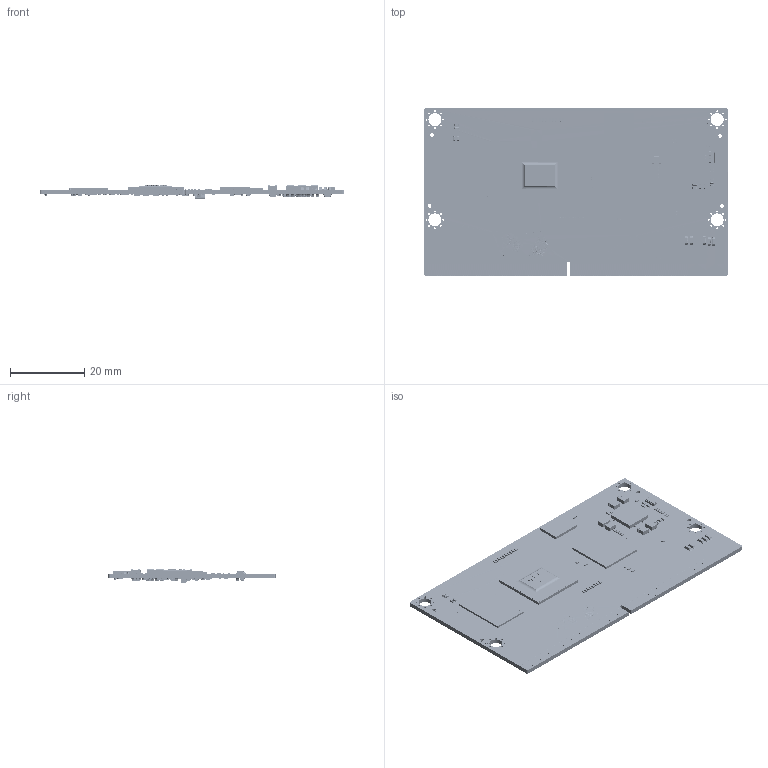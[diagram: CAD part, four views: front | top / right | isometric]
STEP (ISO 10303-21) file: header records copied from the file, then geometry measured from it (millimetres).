
FILE_DESCRIPTION (( 'STEP AP214' ), '1' );
FILE_NAME ('MYC-JX8MPQ-V10-220513-end.STEP', '2022-05-13T11:01:59', ( '' ), ( '' ), 'SwSTEP 2.0', 'SolidWorks 2022', '' );
FILE_SCHEMA (( 'AUTOMOTIVE_DESIGN' ));
Length unit declared in the file: millimetre
Products named in the file (262): Part_147_183.stp; Part_147_56.stp; Cylinder.stp; Part_147_17.stp; Part_147_120.stp; Part_147_46.stp; Part_147_123.stp; PCB-7.stp; Part_147_173.stp; CONN-JINSHOUZHI281.stp; Part_147_78.stp; C0201.stp; Part_147_49.stp; Part_147_102.stp; Part_147_187.stp; pcb1.stp; Part_147_52.stp; MYC-JX8MPQ-V10-220513.stp; Part_147_193.stp; Part_147_168.stp; Part_147_58.stp; HVQFN56_0P4_7X7_EP4P7MM.stp; Part_147_101.stp; Part_147_191.stp; Part_147_81.stp; R0402-2.stp; Part_147_148.stp; FBGA200.stp; Part_147_118.stp; Part_147_171.stp; Part_147_126.stp; User Library-10001376_NXP_MIMX8ML4DVNLZAB.url.stp; C0201-5.stp; Part_147_115.stp; User Library-IS46LQ32128A-062BLA.stp; Part_147_26.stp; L2X2_5.stp; Part_147_65.stp; User Library-tsx-3225-1.stp; Part_147_37.stp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
Assembly tree (574 placements, depth 8):
  MYC-JX8MPQ-V10-220513-end
    MYC-JX8MPQ-V10-220513.stp
      COMPONENTS.stp
        CONN-JINSHOUZHI281.stp
          pcb1.stp
        3225.stp
          User Library-tsx-3225-1.stp
        TPAD_020.stp  x38
          TEST0_8smd.stp
        C0402.stp  x38
          C0402-0.stp
        C0603.stp  x25
          C0603-1.stp
        R0402.stp  x83
          R0402-2.stp
        ID-BOARD.stp  x6
          PIECE.stp
        R0603.stp  x8
          R0603-3.stp
        L2X2_5.stp  x6
          L2520.stp
        TEST0_8-SMD.stp  x16
          PIECE.stp
        BGA153_C010S.stp
          BGA153.stp
        OS3215.stp
          User Library-NDK_NX3215SA.stp
        FBGA200.stp
          User Library-IS46LQ32128A-062BLA.stp
            Part_147.stp
            Part_147_2.stp
            Part_147_3.stp
            Part_147_4.stp
            Part_147_5.stp
            Part_147_6.stp
            Part_147_7.stp
            Part_147_8.stp
            Part_147_9.stp
            Part_147_10.stp
            Part_147_11.stp
            Part_147_12.stp
            Part_147_13.stp
            Part_147_14.stp
            Part_147_15.stp
            Part_147_16.stp
            Part_147_17.stp
            Part_147_18.stp
            Part_147_19.stp
            Part_147_20.stp
            Part_147_21.stp
            Part_147_22.stp
            Part_147_23.stp
            Part_147_24.stp
            Part_147_25.stp
            Part_147_26.stp
            Part_147_27.stp
            Part_147_28.stp
            Part_147_29.stp
            Part_147_30.stp
            Part_147_31.stp
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Bounding box: 82 x 45 x 3.54 mm (x, y, z)
Volume: 650.3 mm3; surface area: 11021.1 mm2
Topology: 1697 solids, 1785 shells, 51174 faces, 135376 edges, 88436 vertices
Faces by surface type: bspline 20929, plane 18132, cylinder 8673, sphere 2852, torus 588
Entity records: 292718 total; most frequent: CARTESIAN_POINT 96093, ORIENTED_EDGE 34520, DIRECTION 31507, EDGE_CURVE 17275, AXIS2_PLACEMENT_3D 13646, VERTEX_POINT 11042, EDGE_LOOP 8806, ADVANCED_FACE 8483
